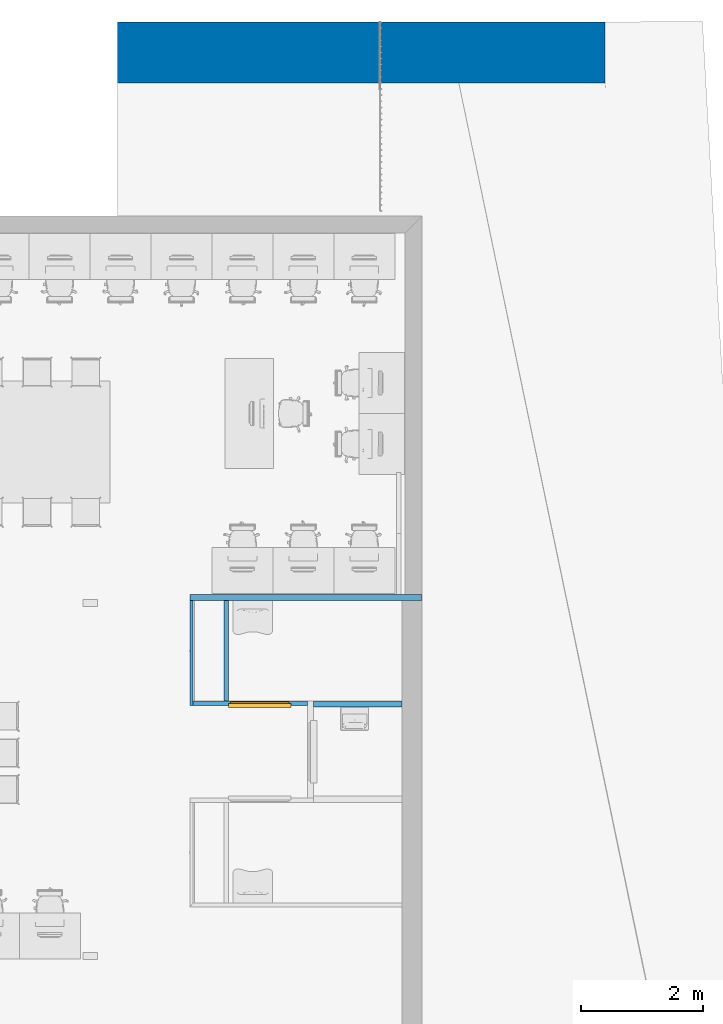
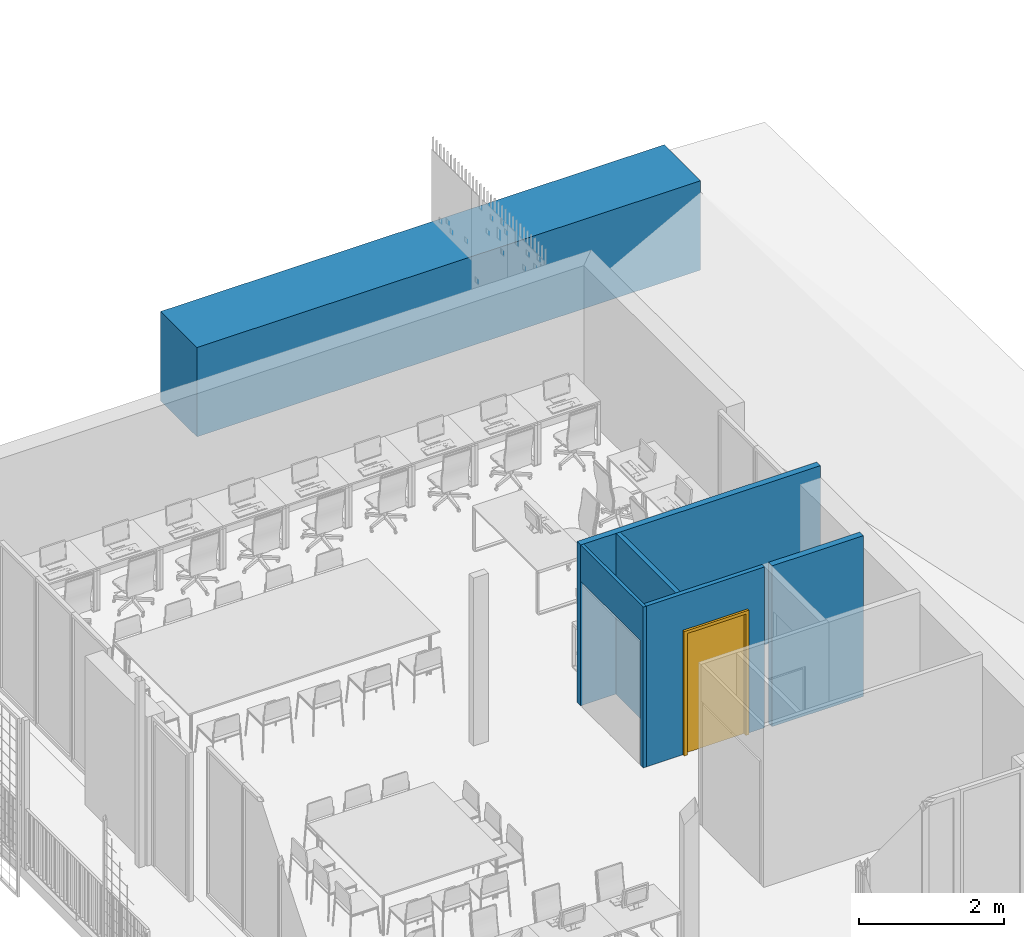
# One storey, part 18 of 51: 6 walls, 1 door, 2 openings.
"""IFC2X3 building model written with IfcOpenShell, lengths in metres."""

from ifc_helpers import new_model, entity, si_unit, converted_unit, derived_unit, direction, frame, frame_2d, origin, place, context, subcontext, project, spatial, rectangle, extrude, faceted_brep, source, transform, mapped, material, layer, layer_set, layer_usage, type_object, type_shapes, element, fill, save


model = new_model("IFC2X3")

# Units and contexts
model_context = context("Model", 3, precision=1e-05, world=origin(), true_north=direction((6.123031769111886e-17, 1.0)))
body_context = subcontext(model_context, "Body", "Model", "MODEL_VIEW")
ifc_project = project(units=[si_unit("LENGTHUNIT", "METRE"), si_unit("AREAUNIT", "SQUARE_METRE"), si_unit("VOLUMEUNIT", "CUBIC_METRE"), converted_unit("PLANEANGLEUNIT", "DEGREE", entity("IfcRatioMeasure", 0.017453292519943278), si_unit("PLANEANGLEUNIT", "RADIAN"), dimensions=[0, 0, 0, 0, 0, 0, 0]), si_unit("MASSUNIT", "GRAM", prefix="KILO"), derived_unit("MASSDENSITYUNIT", [(si_unit("MASSUNIT", "GRAM", prefix="KILO"), 1), (si_unit("LENGTHUNIT", "METRE"), -3)]), derived_unit("MOMENTOFINERTIAUNIT", [(si_unit("LENGTHUNIT", "METRE"), 4)]), si_unit("TIMEUNIT", "SECOND"), si_unit("FREQUENCYUNIT", "HERTZ"), si_unit("THERMODYNAMICTEMPERATUREUNIT", "DEGREE_CELSIUS"), derived_unit("THERMALTRANSMITTANCEUNIT", [(si_unit("MASSUNIT", "GRAM", prefix="KILO"), 1), (si_unit("THERMODYNAMICTEMPERATUREUNIT", "KELVIN"), -1), (si_unit("TIMEUNIT", "SECOND"), -3)]), derived_unit("THERMALCONDUCTANCEUNIT", [(si_unit("MASSUNIT", "GRAM", prefix="KILO"), 1), (si_unit("LENGTHUNIT", "METRE"), 1), (si_unit("THERMODYNAMICTEMPERATUREUNIT", "KELVIN"), -1), (si_unit("TIMEUNIT", "SECOND"), -3)]), derived_unit("VOLUMETRICFLOWRATEUNIT", [(si_unit("LENGTHUNIT", "METRE"), 3), (si_unit("TIMEUNIT", "SECOND"), -1)]), derived_unit("MASSFLOWRATEUNIT", [(si_unit("MASSUNIT", "GRAM", prefix="KILO"), 1), (si_unit("TIMEUNIT", "SECOND"), -1)]), derived_unit("ROTATIONALFREQUENCYUNIT", [(si_unit("TIMEUNIT", "SECOND"), -1)]), si_unit("ELECTRICCURRENTUNIT", "AMPERE"), si_unit("ELECTRICVOLTAGEUNIT", "VOLT"), si_unit("POWERUNIT", "WATT"), si_unit("FORCEUNIT", "NEWTON", prefix="KILO"), si_unit("ILLUMINANCEUNIT", "LUX"), si_unit("LUMINOUSFLUXUNIT", "LUMEN"), si_unit("LUMINOUSINTENSITYUNIT", "CANDELA"), derived_unit("USERDEFINED", [(si_unit("MASSUNIT", "GRAM", prefix="KILO"), -1), (si_unit("LENGTHUNIT", "METRE"), -2), (si_unit("TIMEUNIT", "SECOND"), 3), (si_unit("LUMINOUSFLUXUNIT", "LUMEN"), 1)]), derived_unit("USERDEFINED", [(si_unit("MASSUNIT", "GRAM", prefix="KILO"), 1), (si_unit("LENGTHUNIT", "METRE"), 3), (si_unit("TIMEUNIT", "SECOND"), -3), (si_unit("ELECTRICCURRENTUNIT", "AMPERE"), -2)]), derived_unit("USERDEFINED", [(si_unit("LENGTHUNIT", "METRE"), 2), (si_unit("TIMEUNIT", "SECOND"), -2)]), derived_unit("SOUNDPOWERUNIT", [(si_unit("MASSUNIT", "GRAM", prefix="KILO"), 1), (si_unit("LENGTHUNIT", "METRE"), 2), (si_unit("TIMEUNIT", "SECOND"), -3)]), derived_unit("SOUNDPRESSUREUNIT", [(si_unit("MASSUNIT", "GRAM", prefix="KILO"), 1), (si_unit("LENGTHUNIT", "METRE"), -1), (si_unit("TIMEUNIT", "SECOND"), -2)]), derived_unit("LINEARVELOCITYUNIT", [(si_unit("LENGTHUNIT", "METRE"), 1), (si_unit("TIMEUNIT", "SECOND"), -1)]), si_unit("PRESSUREUNIT", "PASCAL"), derived_unit("USERDEFINED", [(si_unit("LENGTHUNIT", "METRE"), -2), (si_unit("MASSUNIT", "GRAM", prefix="KILO"), 1), (si_unit("TIMEUNIT", "SECOND"), -2)]), derived_unit("LINEARFORCEUNIT", [(si_unit("MASSUNIT", "GRAM", prefix="KILO"), 1), (si_unit("LENGTHUNIT", "METRE"), 1), (si_unit("TIMEUNIT", "SECOND"), -2), (si_unit("LENGTHUNIT", "METRE"), -1)]), derived_unit("PLANARFORCEUNIT", [(si_unit("MASSUNIT", "GRAM", prefix="KILO"), 1), (si_unit("LENGTHUNIT", "METRE"), 1), (si_unit("TIMEUNIT", "SECOND"), -2), (si_unit("LENGTHUNIT", "METRE"), -2)]), derived_unit("SPECIFICHEATCAPACITYUNIT", [(si_unit("LENGTHUNIT", "METRE"), 2), (si_unit("TIMEUNIT", "SECOND"), -2), (si_unit("THERMODYNAMICTEMPERATUREUNIT", "KELVIN"), -1)]), derived_unit("VAPORPERMEABILITYUNIT", [(si_unit("TIMEUNIT", "SECOND"), 1), (si_unit("LENGTHUNIT", "METRE"), -1)]), derived_unit("DYNAMICVISCOSITYUNIT", [(si_unit("MASSUNIT", "GRAM", prefix="KILO"), 1), (si_unit("LENGTHUNIT", "METRE"), -1), (si_unit("TIMEUNIT", "SECOND"), -1)]), derived_unit("THERMALEXPANSIONCOEFFICIENTUNIT", [(si_unit("THERMODYNAMICTEMPERATUREUNIT", "KELVIN"), -1)])], contexts=[model_context])

# Site, building, storey
site_placement = place(None, origin())
site = spatial("IfcSite", under=ifc_project, at=site_placement, Name="Default", CompositionType="ELEMENT")
building_placement = place(site_placement, origin())
building = spatial("IfcBuilding", under=site, at=building_placement, CompositionType="ELEMENT")
storey_placement = place(building_placement, frame((0.0, 0.0, 3.06)))
storey = spatial("IfcBuildingStorey", under=building, at=storey_placement, Name="ÉTAGE", CompositionType="ELEMENT", Elevation=3.06)

# Wall
ifc_material_1 = material(Name="Plâtre - Plaques de plâtre")
ifc_layer_1 = layer(ifc_material_1, 0.013)
ifc_material_2 = material(Name="Isolation - Fibre de verre")
ifc_layer_2 = layer(ifc_material_2, 0.044)
ifc_layer_3 = layer(ifc_material_1, 0.013)
ifc_layer_set_1 = layer_set([ifc_layer_1, ifc_layer_2, ifc_layer_3], Name="Mur de base:ABA cloison 7cm 70")
ifc_layer_usage_1 = layer_usage(ifc_layer_set_1, "AXIS2", "NEGATIVE", 0.034999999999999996)
wall_type_1 = type_object("IfcWallType", Name="Mur de base:ABA cloison 7cm 70", PredefinedType="STANDARD", material=ifc_layer_set_1)
wall_1_placement = place(storey_placement, frame((149.08575226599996, 18.2772094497, 1.21), z_axis=(0.0, 0.0, 1.0), x_axis=(0.0, 1.0, 0.0)))
element("IfcWallStandardCase", 1, at=wall_1_placement, inside=storey, type_object=wall_type_1, material=ifc_layer_usage_1, Name="MurExt-017", ObjectType="Mur de base:ABA cloison 7cm 70", context=body_context, shape_type="SweptSolid", body=[
    extrude(rectangle(XDim=1.6500000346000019, YDim=0.06999999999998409, at=frame_2d((0.8250000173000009, 0.0), x_axis=(-1.0, 0.0))), origin(), (0.0, 0.0, 1.0), 2.7000000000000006),
])

# Wall, opening, door
wall_2_placement = place(storey_placement, frame((148.54075225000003, 18.2422094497, 1.21)))
wall_2 = element("IfcWallStandardCase", 2, at=wall_2_placement, inside=storey, type_object=wall_type_1, material=ifc_layer_usage_1, Name="MurExt-016", ObjectType="Mur de base:ABA cloison 7cm 70", context=body_context, shape_type="SweptSolid", body=[
    extrude(rectangle(XDim=1.8800000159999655, YDim=0.07000000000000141, at=frame_2d((0.9400000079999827, 0.0), x_axis=(-1.0, 0.0))), origin(), (0.0, 0.0, 1.0), 2.7000000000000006),
])
opening_1_placement = place(wall_2_placement, frame((-148.54075225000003, -18.2422094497, -1.2099999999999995)))
opening_1 = element("IfcOpeningElement", 3, at=opening_1_placement, cuts=wall_2, Name="MurExt-016", ObjectType="Opening", context=body_context, shape_type="SweptSolid", body=[
    extrude(rectangle(XDim=2.09, YDim=1.0300000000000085, at=frame_2d((0.0, 3.3306690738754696e-16), x_axis=(0.0, 1.0))), frame((149.635752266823, 18.1708094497, 2.254999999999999), z_axis=(0.0, 1.0, 0.0), x_axis=(1.0, 0.0, 0.0)), (0.0, 0.0, 1.0), 0.14279999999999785),
])
ifc_material_3 = material(Name="Peinture - Gris clair")
door_style = type_object("IfcDoorStyle", Name="Por-004", ConstructionType="NOTDEFINED", OperationType="SINGLE_SWING_LEFT", ParameterTakesPrecedence=False, Sizeable=False, material=ifc_material_3)
shared_shape = source(origin(), body_context, "Body", "Brep", [
    faceted_brep([(0.0, -0.0714, 0.0), (0.0, -0.0714, 2.09), (1.03, -0.0714, 2.09), (1.03, -0.0714, 0.0), (0.995, -0.0714, 0.0), (0.995, -0.0714, 2.055), (0.03500000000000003, -0.0714, 2.055), (0.03500000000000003, -0.0714, 0.0), (0.0, -0.1414, 0.0), (0.0, -0.1414, 2.09), (1.03, -0.1414, 2.09), (1.03, -0.1414, 0.0), (0.98, -0.1414, 0.0), (0.98, -0.0864, 0.0), (0.995, -0.0864, 0.0), (0.995, -0.0864, 2.055), (0.03500000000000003, -0.0864, 2.055), (0.03500000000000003, -0.0864, 0.0), (0.05, -0.0864, 0.0), (0.05, -0.1414, 0.0), (0.98, -0.1414, 2.04), (0.05, -0.1414, 2.04), (0.98, -0.0864, 2.04), (0.05, -0.0864, 2.04), (0.03500000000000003, -0.046400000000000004, 0.0), (0.995, -0.046400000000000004, 0.0), (0.03500000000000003, -0.046400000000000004, 2.055), (0.995, -0.046400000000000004, 2.055)], [[[0, 1, 2, 3, 4, 5, 6, 7]], [[8, 9, 1, 0]], [[9, 10, 2, 1]], [[10, 11, 3, 2]], [[3, 11, 12, 13, 14, 4]], [[5, 4, 14, 15]], [[6, 5, 15, 16]], [[7, 6, 16, 17]], [[0, 7, 17, 18, 19, 8]], [[19, 8, 9, 10, 11, 12, 20, 21]], [[22, 13, 12, 20]], [[17, 16, 15, 14, 13, 22, 23, 18]], [[18, 23, 21, 19]], [[23, 22, 20, 21]], [[24, 25, 14, 17]], [[24, 26, 27, 25]], [[25, 27, 15, 14]], [[17, 14, 15, 16]], [[26, 24, 17, 16]], [[27, 26, 16, 15]]]),
])
type_shapes(door_style, [shared_shape])
door_placement = place(opening_1_placement, frame((149.120752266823, 18.313609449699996, 1.2099999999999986)))
door = element("IfcDoor", 4, at=door_placement, inside=storey, type_object=door_style, material=ifc_material_3, Name="Por-004 25692:Por-004 25692", ObjectType="Por-004 25692:Por-004 25692", OverallHeight=2.09, OverallWidth=1.0300000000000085, context=body_context, shape_type="MappedRepresentation", body=[
    mapped(shared_shape, transform((0.0, 0.0, 0.0), scale=1.0)),
])
fill(opening_1, door)

# Walls
ifc_material_4 = material(Name="Peinture - Beige sable")
ifc_layer_4 = layer(ifc_material_4, 0.9999999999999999)
ifc_layer_set_2 = layer_set([ifc_layer_4], Name="Mur de base:Finition ext - Fibre-ciment 1000")
ifc_layer_usage_2 = layer_usage(ifc_layer_set_2, "AXIS2", "NEGATIVE", 0.49999999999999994)
wall_type_2 = type_object("IfcWallType", Name="Mur de base:Finition ext - Fibre-ciment 1000", PredefinedType="STANDARD", material=ifc_layer_set_2)
wall_3_placement = place(storey_placement, frame((155.30075247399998, 28.924162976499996, 0.9899999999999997), z_axis=(0.0, 0.0, 1.0), x_axis=(-1.0, 0.0, 0.0)))
element("IfcWallStandardCase", 5, at=wall_3_placement, inside=storey, type_object=wall_type_2, material=ifc_layer_usage_2, Name="MurExt-021", ObjectType="Mur de base:Finition ext - Fibre-ciment 1000", context=body_context, shape_type="SweptSolid", body=[
    extrude(rectangle(XDim=7.999999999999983, YDim=0.9999999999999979, at=frame_2d((3.9999999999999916, 0.0), x_axis=(-1.0, 0.0))), origin(), (0.0, 0.0, 1.0), 1.5000000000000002),
])
ifc_layer_5 = layer(ifc_material_1, 0.013)
ifc_layer_6 = layer(ifc_material_1, 0.013)
ifc_layer_7 = layer(ifc_material_2, 0.048)
ifc_layer_8 = layer(ifc_material_1, 0.013)
ifc_layer_9 = layer(ifc_material_1, 0.013)
ifc_layer_set_3 = layer_set([ifc_layer_5, ifc_layer_6, ifc_layer_7, ifc_layer_8, ifc_layer_9], Name="Mur de base:ABA cloison 10cm 100")
ifc_layer_usage_3 = layer_usage(ifc_layer_set_3, "AXIS2", "NEGATIVE", 0.05)
wall_type_3 = type_object("IfcWallType", Name="Mur de base:ABA cloison 10cm 100", PredefinedType="STANDARD", material=ifc_layer_set_3)
wall_4_placement = place(storey_placement, frame((150.52075226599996, 18.2272094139, 1.21)))
element("IfcWallStandardCase", 6, at=wall_4_placement, inside=storey, type_object=wall_type_3, material=ifc_layer_usage_3, Name="MurExt-016", ObjectType="Mur de base:ABA cloison 10cm 100", context=body_context, shape_type="SweptSolid", body=[
    extrude(rectangle(XDim=1.4500000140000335, YDim=0.09999999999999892, at=frame_2d((0.7250000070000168, 0.0), x_axis=(-1.0, 0.0))), origin(), (0.0, 0.0, 1.0), 2.7000000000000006),
])
wall_5_placement = place(storey_placement, frame((152.30075228, 19.9772094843, 1.21), z_axis=(0.0, 0.0, 1.0), x_axis=(-1.0, 0.0, 0.0)))
element("IfcWallStandardCase", 7, at=wall_5_placement, inside=storey, type_object=wall_type_3, material=ifc_layer_usage_3, Name="MurExt-016", ObjectType="Mur de base:ABA cloison 10cm 100", context=body_context, shape_type="SweptSolid", body=[
    extrude(rectangle(XDim=3.8100000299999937, YDim=0.10000000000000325, at=frame_2d((1.9050000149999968, 0.0), x_axis=(-1.0, 0.0))), origin(), (0.0, 0.0, 1.0), 2.7000000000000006),
])

# Wall, opening
ifc_layer_10 = layer(ifc_material_1, 0.013)
ifc_layer_11 = layer(ifc_material_2, 0.024)
ifc_layer_12 = layer(ifc_material_1, 0.013)
ifc_layer_set_4 = layer_set([ifc_layer_10, ifc_layer_11, ifc_layer_12], Name="Mur de base:ABA cloison 5cm 50")
ifc_layer_usage_4 = layer_usage(ifc_layer_set_4, "AXIS2", "NEGATIVE", 0.024999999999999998)
wall_type_4 = type_object("IfcWallType", Name="Mur de base:ABA cloison 5cm 50", PredefinedType="STANDARD", material=ifc_layer_set_4)
wall_6_placement = place(storey_placement, frame((148.51575225, 18.2072094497, 1.21), z_axis=(0.0, 0.0, 1.0), x_axis=(0.0, 1.0, 0.0)))
wall_6 = element("IfcWallStandardCase", 8, at=wall_6_placement, inside=storey, type_object=wall_type_4, material=ifc_layer_usage_4, Name="MurExt-013", ObjectType="Mur de base:ABA cloison 5cm 50", context=body_context, shape_type="SweptSolid", body=[
    extrude(rectangle(XDim=1.720000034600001, YDim=0.04999999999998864, at=frame_2d((0.8600000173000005, 0.0), x_axis=(-1.0, 0.0))), origin(), (0.0, 0.0, 1.0), 2.7000000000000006),
])
opening_2_placement = place(wall_6_placement, frame((-18.2072094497, 148.51575225, -1.2099999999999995), z_axis=(0.0, 0.0, 1.0), x_axis=(0.0, -1.0, 0.0)))
element("IfcOpeningElement", 9, at=opening_2_placement, cuts=wall_6, Name="MurExt-013", ObjectType="Opening", context=body_context, shape_type="SweptSolid", body=[
    extrude(rectangle(XDim=2.089999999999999, YDim=1.649999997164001, at=frame_2d((0.0, 1.1102230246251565e-15), x_axis=(1.0, 0.0))), frame((148.56675225, 19.102209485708, 2.254999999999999), z_axis=(-1.0, 0.0, 0.0), x_axis=(0.0, 0.0, 1.0)), (0.0, 0.0, 1.0), 0.10200000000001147),
])

save(model, "model.ifc")
